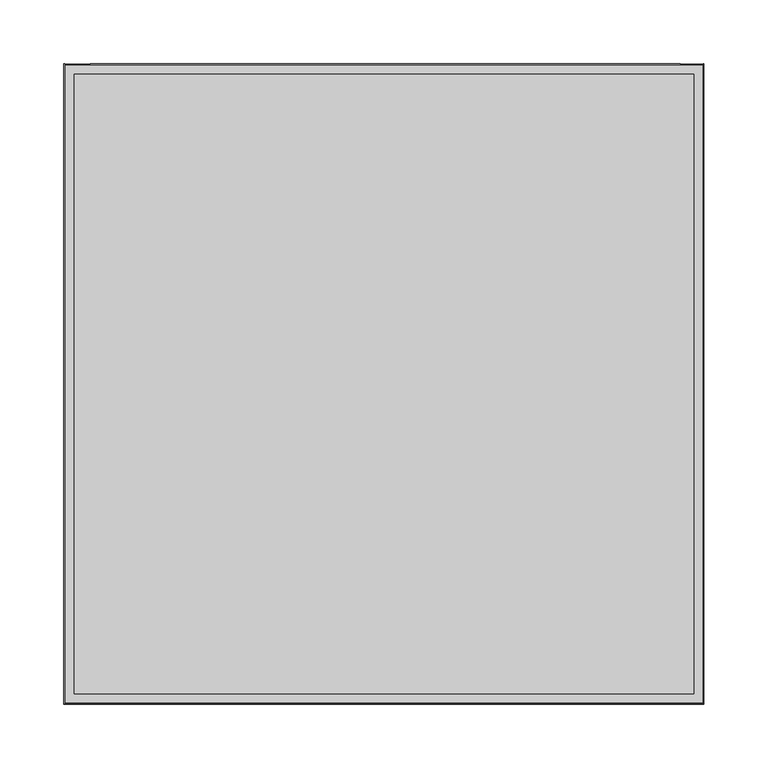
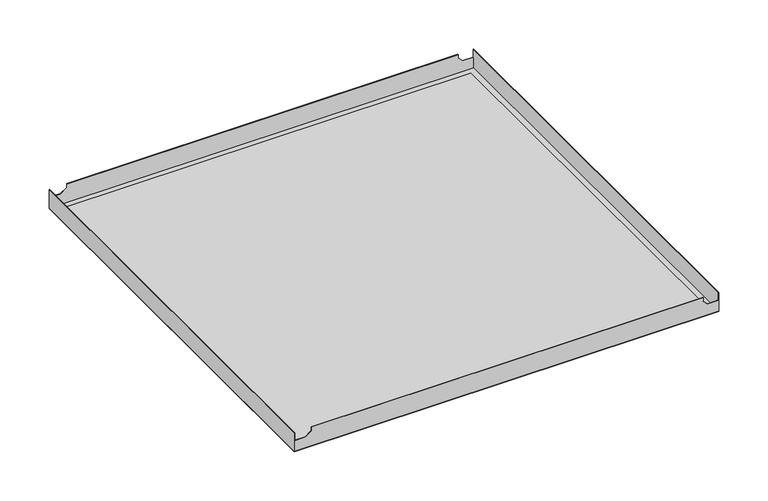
"""IFC4 building model written with IfcOpenShell, lengths in millimetres: proxy geometry, durlum_S1_panel : durlum_S1_panel_wall_corner."""

from ifc_helpers import new_model, si_unit, frame, origin, origin_with_axes, place, context, project, spatial, polyline, outline, extrude, faceted_brep, source, transform, mapped, element, save


def generic_models_6d21b951(model_context):
    return source(origin(), model_context, "Body", "SolidModel", [
        faceted_brep([(-250.0, 250.0, 23.5), (-250.0, -250.0, 23.5), (-249.4, -250.0, 23.5), (-249.4, 250.0, 23.5), (250.0, -250.0, 23.5), (250.0, 250.0, 23.5), (249.4, 250.0, 23.5), (249.4, -250.0, 23.5), (-229.4, 250.0, 23.5), (-229.4, 249.4, 23.5), (231.4, 249.4, 23.5), (231.4, 250.0, 23.5), (-229.4, -249.4, 23.5), (-229.4, -250.0, 23.5), (231.4, -250.0, 23.5), (231.4, -249.4, 23.5), (250.0, 250.0, 0.6), (250.0, -250.0, 0.6), (-250.0, -250.0, 0.6), (-250.0, 250.0, 0.6), (249.4, 249.4, 0.6), (-249.4, 249.4, 0.6), (-249.4, -249.4, 0.6), (249.4, -249.4, 0.6), (-249.4, 250.0, 13.6669893), (-236.6658218, 250.0, 13.6669893), (-229.4, 250.0, 18.9328111), (231.4, 250.0, 18.9469988), (236.6800094, 250.0, 13.6669893), (249.4, 250.0, 13.6669893), (249.4, -250.0, 13.6669893), (236.6800094, -250.0, 13.6669893), (231.4, -250.0, 18.9469988), (-229.4, -250.0, 18.9328111), (-236.6658218, -250.0, 13.6669893), (-249.4, -250.0, 13.6669893), (249.4, 249.4, 13.6669893), (249.4, -249.4, 13.6669893), (-249.4, -249.4, 13.6669893), (-236.6658218, -249.4, 13.6669893), (-229.4, -249.4, 18.9328111), (231.4, -249.4, 18.9469988), (236.6800094, -249.4, 13.6669893), (-249.4, 249.4, 13.6669893), (236.6800094, 249.4, 13.6669893), (231.4, 249.4, 18.9469988), (-229.4, 249.4, 18.9328111), (-236.6658218, 249.4, 13.6669893)], [[[0, 1, 2, 3]], [[4, 5, 6, 7]], [[8, 9, 10, 11]], [[12, 13, 14, 15]], [[16, 17, 18, 19], [20, 21, 22, 23]], [[16, 19, 0, 3, 24, 25, 26, 8, 11, 27, 28, 29, 6, 5]], [[1, 0, 19, 18]], [[18, 17, 4, 7, 30, 31, 32, 14, 13, 33, 34, 35, 2, 1]], [[5, 4, 17, 16]], [[6, 29, 36, 20, 23, 37, 30, 7]], [[23, 22, 38, 39, 40, 12, 15, 41, 42, 37]], [[22, 21, 43, 24, 3, 2, 35, 38]], [[21, 20, 36, 44, 45, 10, 9, 46, 47, 43]], [[38, 35, 34, 39]], [[24, 43, 47, 25]], [[39, 34, 33, 40]], [[25, 47, 46, 26]], [[40, 33, 13, 12]], [[26, 46, 9, 8]], [[36, 29, 28, 44]], [[30, 37, 42, 31]], [[44, 28, 27, 45]], [[31, 42, 41, 32]], [[32, 41, 15, 14]], [[45, 27, 11, 10]]]),
        extrude(outline(polyline([(242.0, 242.0), (242.0, -242.0), (-242.0, -242.0), (-242.0, 242.0), (242.0, 242.0)])), frame((0.0, 0.0, 0.6), z_axis=(0.0, 0.0, 1.0), x_axis=(1.0, 0.0, 0.0)), (0.0, 0.0, 1.0), 0.6),
        extrude(outline(polyline([(250.0, 250.0), (250.0, -250.0), (-250.0, -250.0), (-250.0, 250.0), (250.0, 250.0)]), holes=[polyline([(242.0, 242.0), (-242.0, 242.0), (-242.0, -242.0), (242.0, -242.0), (242.0, 242.0)])]), origin_with_axes(), (0.0, 0.0, 1.0), 0.6),
        extrude(outline(polyline([(242.0, 242.0), (242.0, -242.0), (-242.0, -242.0), (-242.0, 242.0), (242.0, 242.0)])), origin_with_axes(), (0.0, 0.0, 1.0), 0.6),
    ])


if __name__ == "__main__":
    model = new_model("IFC4")
    model_context = context("Model", 3, world=origin())
    ifc_project = project(units=[si_unit("LENGTHUNIT", "METRE", prefix="MILLI")], contexts=[model_context])
    site = spatial("IfcSite", under=ifc_project)
    building = spatial("IfcBuilding", under=site)
    placement = place(None, origin())
    generic_models_shape = generic_models_6d21b951(model_context)
    element("IfcBuildingElementProxy", 1, Name="durlum_S1_panel : durlum_S1_panel_wall_corner", ObjectType="durlum_S1_panel : durlum_S1_panel_wall_corner", at=placement, inside=building, context=model_context, shape_type="MappedRepresentation", body=[
        mapped(generic_models_shape, transform((0.0, 0.0, 0.0), x_axis=(1.0, 0.0, 0.0), y_axis=(0.0, 1.0, 0.0), z_axis=(0.0, 0.0, 1.0))),
    ])
    save(model, "model.ifc")
